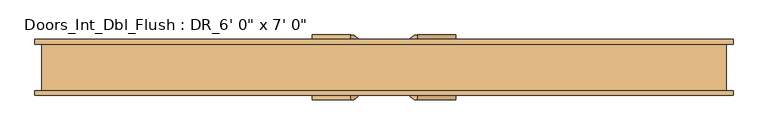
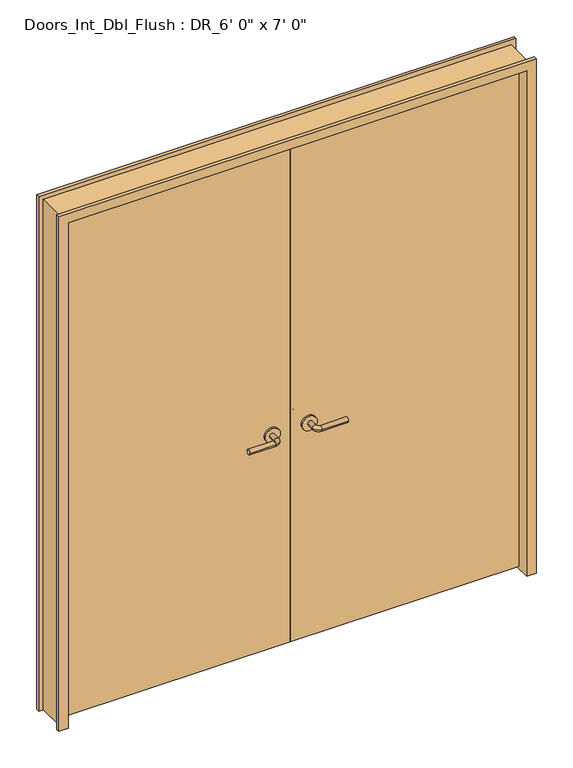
"""IFC4 building model written with IfcOpenShell, lengths in millimetres: door geometry."""

from ifc_helpers import new_model, si_unit, point, frame, frame_2d, origin, place, context, project, spatial, polyline, circle_curve, ellipse_curve, trimmed, segment, composite_curve, outline, extrude, faceted_brep, source, transform, mapped, element, save
from ifc_brep_helpers import plane_surface, cylinder_surface, revolved_surface, advanced_brep


def door_34f3d1b5(model_context):
    return source(origin(), model_context, "Body", "SolidModel", [
        advanced_brep(
        [(-66.2, 33.4, 914.4), (-86.2, 33.4, 914.4), (-86.2, 63.4, 914.4), (-66.2, 63.4, 914.4), (-91.2, 68.4, 914.4), (-91.2, 88.4, 914.4), (-196.2, 88.4, 914.4), (-196.2, 68.4, 914.4)],
        [
            (0, 1, circle_curve(frame((-76.2, 33.4, 914.4), z_axis=(0.0, -1.0, 0.0), x_axis=(-1.0, 0.0, 0.0)), 10.0)),
            (1, 0, circle_curve(frame((-76.2, 33.4, 914.4), z_axis=(0.0, -1.0, 0.0), x_axis=(-1.0, 0.0, 0.0)), 10.0)),
            (1, 2),
            (2, 3, circle_curve(frame((-76.2, 63.4, 914.4), z_axis=(0.0, -1.0, 0.0), x_axis=(-1.0, 0.0, 0.0)), 10.0)),
            (3, 0),
            (3, 2, circle_curve(frame((-76.2, 63.4, 914.4), z_axis=(0.0, -1.0, 0.0), x_axis=(-1.0, 0.0, 0.0)), 10.0)),
            (4, 5, circle_curve(frame((-91.2, 78.4, 914.4), z_axis=(1.0, 0.0, 0.0), x_axis=(0.0, -1.0, 0.0)), 10.0)),
            (5, 3, circle_curve(frame((-91.2, 63.4, 914.4), z_axis=(0.0, 0.0, -1.0), x_axis=(1.0, 0.0, 0.0)), 25.0)),
            (2, 4, circle_curve(frame((-91.2, 63.4, 914.4), z_axis=(0.0, 0.0, 1.0), x_axis=(1.0, 0.0, 0.0)), 5.0)),
            (5, 4, circle_curve(frame((-91.2, 78.4, 914.4), z_axis=(1.0, 0.0, 0.0), x_axis=(0.0, -1.0, 0.0)), 10.0)),
            (6, 7, circle_curve(frame((-196.2, 78.4, 914.4), z_axis=(-1.0, 0.0, 0.0), x_axis=(0.0, -1.0, 0.0)), 10.0)),
            (7, 6, circle_curve(frame((-196.2, 78.4, 914.4), z_axis=(-1.0, 0.0, 0.0), x_axis=(0.0, -1.0, 0.0)), 10.0)),
            (4, 7),
            (6, 5),
        ],
        [
            plane_surface(frame((-76.2, 33.4, 914.4), z_axis=(0.0, -1.0, 0.0), x_axis=(0.0, 0.0, 1.0))),
            cylinder_surface(frame((-76.2, 33.4, 914.4), z_axis=(0.0, -1.0, 0.0), x_axis=(-1.0, 0.0, 0.0)), 10.0),
            revolved_surface(trimmed(ellipse_curve(frame((-76.2, 63.4, 914.4), z_axis=(0.0, 1.0, 0.0), x_axis=(-1.0, 0.0, 0.0)), 10.0, 10.0), [point((-66.2, 63.4, 914.4))], [point((-86.2, 63.4, 914.4))], True, "CARTESIAN"), (-91.2, 63.4, 914.4), (0.0, 0.0, -1.0)),
            revolved_surface(trimmed(ellipse_curve(frame((-76.2, 63.4, 914.4), z_axis=(0.0, 1.0, 0.0), x_axis=(-1.0, 0.0, 0.0)), 10.0, 10.0), [point((-86.2, 63.4, 914.4))], [point((-66.2, 63.4, 914.4))], True, "CARTESIAN"), (-91.2, 63.4, 914.4), (0.0, 0.0, -1.0)),
            plane_surface(frame((-196.2, 78.4, 914.4), z_axis=(-1.0, 0.0, 0.0), x_axis=(0.0, 0.0, 1.0))),
            cylinder_surface(frame((-91.2, 78.4, 914.4), z_axis=(1.0, 0.0, 0.0), x_axis=(0.0, -1.0, 0.0)), 10.0),
        ],
        [
            (0, [[1, 2]]),
            (1, [[3, 4, 5, -2]]),
            (1, [[-5, 6, -3, -1]]),
            (2, [[7, 8, -4, 9]]),
            (3, [[10, -9, -6, -8]]),
            (4, [[11, 12]]),
            (5, [[13, -11, 14, -7]]),
            (5, [[-14, -12, -13, -10]]),
        ],
    ),
        extrude(outline(composite_curve([segment(trimmed(circle_curve(frame_2d((914.4, -73.7)), 30.0), [point((914.4, -43.7))], [point((914.4, -103.7))], False, "CARTESIAN"), True, "CONTINUOUS"), segment(trimmed(circle_curve(frame_2d((914.4, -73.7)), 30.0), [point((914.4, -103.7))], [point((914.4, -43.7))], False, "CARTESIAN"), True, "CONTINUOUS")], self_intersect=False)), frame((0.0, 25.4, 0.0), z_axis=(0.0, 1.0, 0.0), x_axis=(0.0, 0.0, 1.0)), (0.0, 0.0, 1.0), 8.0),
        advanced_brep(
        [(-66.2, -33.4, 914.4), (-86.2, -33.4, 914.4), (-66.2, -63.4, 914.4), (-86.2, -63.4, 914.4), (-91.2, -68.4, 914.4), (-91.2, -88.4, 914.4), (-196.2, -88.4, 914.4), (-196.2, -68.4, 914.4)],
        [
            (0, 1, circle_curve(frame((-76.2, -33.4, 914.4), z_axis=(0.0, 1.0, 0.0), x_axis=(-1.0, 0.0, 0.0)), 10.0)),
            (1, 0, circle_curve(frame((-76.2, -33.4, 914.4), z_axis=(0.0, 1.0, 0.0), x_axis=(-1.0, 0.0, 0.0)), 10.0)),
            (0, 2),
            (2, 3, circle_curve(frame((-76.2, -63.4, 914.4), z_axis=(0.0, 1.0, 0.0), x_axis=(-1.0, 0.0, 0.0)), 10.0)),
            (3, 1),
            (3, 2, circle_curve(frame((-76.2, -63.4, 914.4), z_axis=(0.0, 1.0, 0.0), x_axis=(-1.0, 0.0, 0.0)), 10.0)),
            (4, 3, circle_curve(frame((-91.2, -63.4, 914.4), z_axis=(0.0, 0.0, 1.0), x_axis=(1.0, 0.0, 0.0)), 5.0)),
            (2, 5, circle_curve(frame((-91.2, -63.4, 914.4), z_axis=(0.0, 0.0, -1.0), x_axis=(1.0, 0.0, 0.0)), 25.0)),
            (5, 4, circle_curve(frame((-91.2, -78.4, 914.4), z_axis=(1.0, 0.0, 0.0), x_axis=(0.0, 1.0, 0.0)), 10.0)),
            (4, 5, circle_curve(frame((-91.2, -78.4, 914.4), z_axis=(1.0, 0.0, 0.0), x_axis=(0.0, 1.0, 0.0)), 10.0)),
            (6, 7, circle_curve(frame((-196.2, -78.4, 914.4), z_axis=(-1.0, 0.0, 0.0), x_axis=(0.0, 1.0, 0.0)), 10.0)),
            (7, 6, circle_curve(frame((-196.2, -78.4, 914.4), z_axis=(-1.0, 0.0, 0.0), x_axis=(0.0, 1.0, 0.0)), 10.0)),
            (5, 6),
            (7, 4),
        ],
        [
            plane_surface(frame((-76.2, -33.4, 914.4), z_axis=(0.0, 1.0, 0.0), x_axis=(0.0, 0.0, 1.0))),
            cylinder_surface(frame((-76.2, -33.4, 914.4), z_axis=(0.0, 1.0, 0.0), x_axis=(-1.0, 0.0, 0.0)), 10.0),
            revolved_surface(trimmed(ellipse_curve(frame((-76.2, -63.4, 914.4), z_axis=(0.0, 1.0, 0.0), x_axis=(-1.0, 0.0, 0.0)), 10.0, 10.0), [point((-66.2, -63.4, 914.4))], [point((-86.2, -63.4, 914.4))], True, "CARTESIAN"), (-91.2, -63.4, 914.4), (0.0, 0.0, -1.0)),
            revolved_surface(trimmed(ellipse_curve(frame((-76.2, -63.4, 914.4), z_axis=(0.0, 1.0, 0.0), x_axis=(-1.0, 0.0, 0.0)), 10.0, 10.0), [point((-86.2, -63.4, 914.4))], [point((-66.2, -63.4, 914.4))], True, "CARTESIAN"), (-91.2, -63.4, 914.4), (0.0, 0.0, -1.0)),
            plane_surface(frame((-196.2, -78.4, 914.4), z_axis=(-1.0, 0.0, 0.0), x_axis=(0.0, 0.0, 1.0))),
            cylinder_surface(frame((-91.2, -78.4, 914.4), z_axis=(1.0, 0.0, 0.0), x_axis=(0.0, 1.0, 0.0)), 10.0),
        ],
        [
            (0, [[1, 2]]),
            (1, [[-1, 3, 4, 5]]),
            (1, [[-2, -5, 6, -3]]),
            (2, [[7, -4, 8, 9]]),
            (3, [[-8, -6, -7, 10]]),
            (4, [[11, 12]]),
            (5, [[-9, 13, -12, 14]]),
            (5, [[-10, -14, -11, -13]]),
        ],
    ),
        extrude(outline(composite_curve([segment(trimmed(circle_curve(frame_2d((914.4, -73.7)), 30.0), [point((914.4, -43.7))], [point((914.4, -103.7))], False, "CARTESIAN"), True, "CONTINUOUS"), segment(trimmed(circle_curve(frame_2d((914.4, -73.7)), 30.0), [point((914.4, -103.7))], [point((914.4, -43.7))], False, "CARTESIAN"), True, "CONTINUOUS")], self_intersect=False)), frame((0.0, -33.4, 0.0), z_axis=(0.0, 1.0, 0.0), x_axis=(0.0, 0.0, 1.0)), (0.0, 0.0, 1.0), 8.0),
        extrude(outline(polyline([(-914.4, 25.4), (0.0, 25.4), (0.0, -25.4), (-914.4, -25.4), (-914.4, 25.4)])), frame((0.0, 0.0, 12.7), z_axis=(0.0, 0.0, 1.0), x_axis=(1.0, 0.0, 0.0)), (0.0, 0.0, 1.0), 2120.9),
        advanced_brep(
        [(66.2, 33.4, 914.4), (86.2, 33.4, 914.4), (66.2, 63.4, 914.4), (86.2, 63.4, 914.4), (91.2, 68.4, 914.4), (91.2, 88.4, 914.4), (196.2, 88.4, 914.4), (196.2, 68.4, 914.4)],
        [
            (0, 1, circle_curve(frame((76.2, 33.4, 914.4), z_axis=(0.0, -1.0, 0.0), x_axis=(1.0, 0.0, 0.0)), 10.0)),
            (1, 0, circle_curve(frame((76.2, 33.4, 914.4), z_axis=(0.0, -1.0, 0.0), x_axis=(1.0, 0.0, 0.0)), 10.0)),
            (0, 2),
            (2, 3, circle_curve(frame((76.2, 63.4, 914.4), z_axis=(0.0, -1.0, 0.0), x_axis=(1.0, 0.0, 0.0)), 10.0)),
            (3, 1),
            (3, 2, circle_curve(frame((76.2, 63.4, 914.4), z_axis=(0.0, -1.0, 0.0), x_axis=(1.0, 0.0, 0.0)), 10.0)),
            (4, 3, circle_curve(frame((91.2, 63.4, 914.4), z_axis=(0.0, 0.0, 1.0), x_axis=(-1.0, 0.0, 0.0)), 5.0)),
            (2, 5, circle_curve(frame((91.2, 63.4, 914.4), z_axis=(0.0, 0.0, -1.0), x_axis=(-1.0, 0.0, 0.0)), 25.0)),
            (5, 4, circle_curve(frame((91.2, 78.4, 914.4), z_axis=(-1.0, 0.0, 0.0), x_axis=(0.0, -1.0, 0.0)), 10.0)),
            (4, 5, circle_curve(frame((91.2, 78.4, 914.4), z_axis=(-1.0, 0.0, 0.0), x_axis=(0.0, -1.0, 0.0)), 10.0)),
            (6, 7, circle_curve(frame((196.2, 78.4, 914.4), z_axis=(1.0, 0.0, 0.0), x_axis=(0.0, -1.0, 0.0)), 10.0)),
            (7, 6, circle_curve(frame((196.2, 78.4, 914.4), z_axis=(1.0, 0.0, 0.0), x_axis=(0.0, -1.0, 0.0)), 10.0)),
            (5, 6),
            (7, 4),
        ],
        [
            plane_surface(frame((76.2, 33.4, 914.4), z_axis=(0.0, -1.0, 0.0), x_axis=(0.0, 0.0, 1.0))),
            cylinder_surface(frame((76.2, 33.4, 914.4), z_axis=(0.0, -1.0, 0.0), x_axis=(1.0, 0.0, 0.0)), 10.0),
            revolved_surface(trimmed(ellipse_curve(frame((76.2, 63.4, 914.4), z_axis=(0.0, -1.0, 0.0), x_axis=(1.0, 0.0, 0.0)), 10.0, 10.0), [point((66.2, 63.4, 914.4))], [point((86.2, 63.4, 914.4))], True, "CARTESIAN"), (91.2, 63.4, 914.4), (0.0, 0.0, -1.0)),
            revolved_surface(trimmed(ellipse_curve(frame((76.2, 63.4, 914.4), z_axis=(0.0, -1.0, 0.0), x_axis=(1.0, 0.0, 0.0)), 10.0, 10.0), [point((86.2, 63.4, 914.4))], [point((66.2, 63.4, 914.4))], True, "CARTESIAN"), (91.2, 63.4, 914.4), (0.0, 0.0, -1.0)),
            plane_surface(frame((196.2, 78.4, 914.4), z_axis=(1.0, 0.0, 0.0), x_axis=(0.0, 0.0, 1.0))),
            cylinder_surface(frame((91.2, 78.4, 914.4), z_axis=(-1.0, 0.0, 0.0), x_axis=(0.0, -1.0, 0.0)), 10.0),
        ],
        [
            (0, [[1, 2]]),
            (1, [[-1, 3, 4, 5]]),
            (1, [[-2, -5, 6, -3]]),
            (2, [[7, -4, 8, 9]]),
            (3, [[-8, -6, -7, 10]]),
            (4, [[11, 12]]),
            (5, [[-9, 13, -12, 14]]),
            (5, [[-10, -14, -11, -13]]),
        ],
    ),
        extrude(outline(composite_curve([segment(trimmed(circle_curve(frame_2d((914.4, 73.7)), 30.0), [point((914.4, 43.7))], [point((914.4, 103.7))], False, "CARTESIAN"), True, "CONTINUOUS"), segment(trimmed(circle_curve(frame_2d((914.4, 73.7)), 30.0), [point((914.4, 103.7))], [point((914.4, 43.7))], False, "CARTESIAN"), True, "CONTINUOUS")], self_intersect=False)), frame((0.0, 25.4, 0.0), z_axis=(0.0, 1.0, 0.0), x_axis=(0.0, 0.0, 1.0)), (0.0, 0.0, 1.0), 8.0),
        advanced_brep(
        [(66.2, -33.4, 914.4), (86.2, -33.4, 914.4), (86.2, -63.4, 914.4), (66.2, -63.4, 914.4), (91.2, -68.4, 914.4), (91.2, -88.4, 914.4), (196.2, -88.4, 914.4), (196.2, -68.4, 914.4)],
        [
            (0, 1, circle_curve(frame((76.2, -33.4, 914.4), z_axis=(0.0, 1.0, 0.0), x_axis=(1.0, 0.0, 0.0)), 10.0)),
            (1, 0, circle_curve(frame((76.2, -33.4, 914.4), z_axis=(0.0, 1.0, 0.0), x_axis=(1.0, 0.0, 0.0)), 10.0)),
            (1, 2),
            (2, 3, circle_curve(frame((76.2, -63.4, 914.4), z_axis=(0.0, 1.0, 0.0), x_axis=(1.0, 0.0, 0.0)), 10.0)),
            (3, 0),
            (3, 2, circle_curve(frame((76.2, -63.4, 914.4), z_axis=(0.0, 1.0, 0.0), x_axis=(1.0, 0.0, 0.0)), 10.0)),
            (4, 5, circle_curve(frame((91.2, -78.4, 914.4), z_axis=(-1.0, 0.0, 0.0), x_axis=(0.0, 1.0, 0.0)), 10.0)),
            (5, 3, circle_curve(frame((91.2, -63.4, 914.4), z_axis=(0.0, 0.0, -1.0), x_axis=(-1.0, 0.0, 0.0)), 25.0)),
            (2, 4, circle_curve(frame((91.2, -63.4, 914.4), z_axis=(0.0, 0.0, 1.0), x_axis=(-1.0, 0.0, 0.0)), 5.0)),
            (5, 4, circle_curve(frame((91.2, -78.4, 914.4), z_axis=(-1.0, 0.0, 0.0), x_axis=(0.0, 1.0, 0.0)), 10.0)),
            (6, 7, circle_curve(frame((196.2, -78.4, 914.4), z_axis=(1.0, 0.0, 0.0), x_axis=(0.0, 1.0, 0.0)), 10.0)),
            (7, 6, circle_curve(frame((196.2, -78.4, 914.4), z_axis=(1.0, 0.0, 0.0), x_axis=(0.0, 1.0, 0.0)), 10.0)),
            (4, 7),
            (6, 5),
        ],
        [
            plane_surface(frame((76.2, -33.4, 914.4), z_axis=(0.0, 1.0, 0.0), x_axis=(0.0, 0.0, 1.0))),
            cylinder_surface(frame((76.2, -33.4, 914.4), z_axis=(0.0, 1.0, 0.0), x_axis=(1.0, 0.0, 0.0)), 10.0),
            revolved_surface(trimmed(ellipse_curve(frame((76.2, -63.4, 914.4), z_axis=(0.0, -1.0, 0.0), x_axis=(1.0, 0.0, 0.0)), 10.0, 10.0), [point((66.2, -63.4, 914.4))], [point((86.2, -63.4, 914.4))], True, "CARTESIAN"), (91.2, -63.4, 914.4), (0.0, 0.0, -1.0)),
            revolved_surface(trimmed(ellipse_curve(frame((76.2, -63.4, 914.4), z_axis=(0.0, -1.0, 0.0), x_axis=(1.0, 0.0, 0.0)), 10.0, 10.0), [point((86.2, -63.4, 914.4))], [point((66.2, -63.4, 914.4))], True, "CARTESIAN"), (91.2, -63.4, 914.4), (0.0, 0.0, -1.0)),
            plane_surface(frame((196.2, -78.4, 914.4), z_axis=(1.0, 0.0, 0.0), x_axis=(0.0, 0.0, 1.0))),
            cylinder_surface(frame((91.2, -78.4, 914.4), z_axis=(-1.0, 0.0, 0.0), x_axis=(0.0, 1.0, 0.0)), 10.0),
        ],
        [
            (0, [[1, 2]]),
            (1, [[3, 4, 5, -2]]),
            (1, [[-5, 6, -3, -1]]),
            (2, [[7, 8, -4, 9]]),
            (3, [[10, -9, -6, -8]]),
            (4, [[11, 12]]),
            (5, [[13, -11, 14, -7]]),
            (5, [[-14, -12, -13, -10]]),
        ],
    ),
        extrude(outline(composite_curve([segment(trimmed(circle_curve(frame_2d((914.4, 73.7)), 30.0), [point((914.4, 43.7))], [point((914.4, 103.7))], False, "CARTESIAN"), True, "CONTINUOUS"), segment(trimmed(circle_curve(frame_2d((914.4, 73.7)), 30.0), [point((914.4, 103.7))], [point((914.4, 43.7))], False, "CARTESIAN"), True, "CONTINUOUS")], self_intersect=False)), frame((0.0, -33.4, 0.0), z_axis=(0.0, 1.0, 0.0), x_axis=(0.0, 0.0, 1.0)), (0.0, 0.0, 1.0), 8.0),
        extrude(outline(polyline([(914.4, 25.4), (914.4, -25.4), (0.0, -25.4), (0.0, 25.4), (914.4, 25.4)])), frame((0.0, 0.0, 12.7), z_axis=(0.0, 0.0, 1.0), x_axis=(1.0, 0.0, 0.0)), (0.0, 0.0, 1.0), 2120.9),
        faceted_brep([(-914.4, -76.2, 0.0), (-952.5, -76.2, 0.0), (-952.5, -63.5, 0.0), (-933.45, -63.5, 0.0), (-933.45, 63.5, 0.0), (-952.5, 63.5, 0.0), (-952.5, 76.2, 0.0), (-914.4, 76.2, 0.0), (-914.4, -76.2, 2133.6), (914.4, -76.2, 2133.6), (914.4, -76.2, 0.0), (952.5, -76.2, 0.0), (952.5, -76.2, 2171.7), (-952.5, -76.2, 2171.7), (-952.5, -63.5, 2171.7), (952.5, -63.5, 2171.7), (952.5, -63.5, 0.0), (933.45, -63.5, 0.0), (933.45, -63.5, 2152.65), (-933.45, -63.5, 2152.65), (-933.45, 63.5, 2152.65), (933.45, 63.5, 2152.65), (933.45, 63.5, 0.0), (952.5, 63.5, 0.0), (952.5, 63.5, 2171.7), (-952.5, 63.5, 2171.7), (-952.5, 76.2, 2171.7), (952.5, 76.2, 2171.7), (952.5, 76.2, 0.0), (914.4, 76.2, 0.0), (914.4, 76.2, 2133.6), (-914.4, 76.2, 2133.6)], [[[0, 1, 2, 3, 4, 5, 6, 7]], [[1, 0, 8, 9, 10, 11, 12, 13]], [[2, 1, 13, 14]], [[3, 2, 14, 15, 16, 17, 18, 19]], [[4, 3, 19, 20]], [[5, 4, 20, 21, 22, 23, 24, 25]], [[6, 5, 25, 26]], [[7, 6, 26, 27, 28, 29, 30, 31]], [[0, 7, 31, 8]], [[9, 30, 29, 10]], [[10, 29, 28, 23, 22, 17, 16, 11]], [[15, 12, 11, 16]], [[27, 24, 23, 28]], [[21, 18, 17, 22]], [[20, 19, 18, 21]], [[8, 31, 30, 9]], [[14, 13, 12, 15]], [[26, 25, 24, 27]]]),
    ])


if __name__ == "__main__":
    model = new_model("IFC4")
    model_context = context("Model", 3, world=origin())
    ifc_project = project(units=[si_unit("LENGTHUNIT", "METRE", prefix="MILLI")], contexts=[model_context])
    site = spatial("IfcSite", under=ifc_project)
    building = spatial("IfcBuilding", under=site)
    placement = place(None, origin())
    door_shape = door_34f3d1b5(model_context)
    element("IfcDoor", 1, ObjectType="Doors_Int_Dbl_Flush : DR_6' 0\" x 7' 0\"", at=placement, inside=building, context=model_context, shape_type="MappedRepresentation", body=[
        mapped(door_shape, transform((0.0, 0.0, 0.0), x_axis=(1.0, 0.0, 0.0), y_axis=(0.0, 1.0, 0.0), z_axis=(0.0, 0.0, 1.0))),
    ])
    save(model, "model.ifc")
